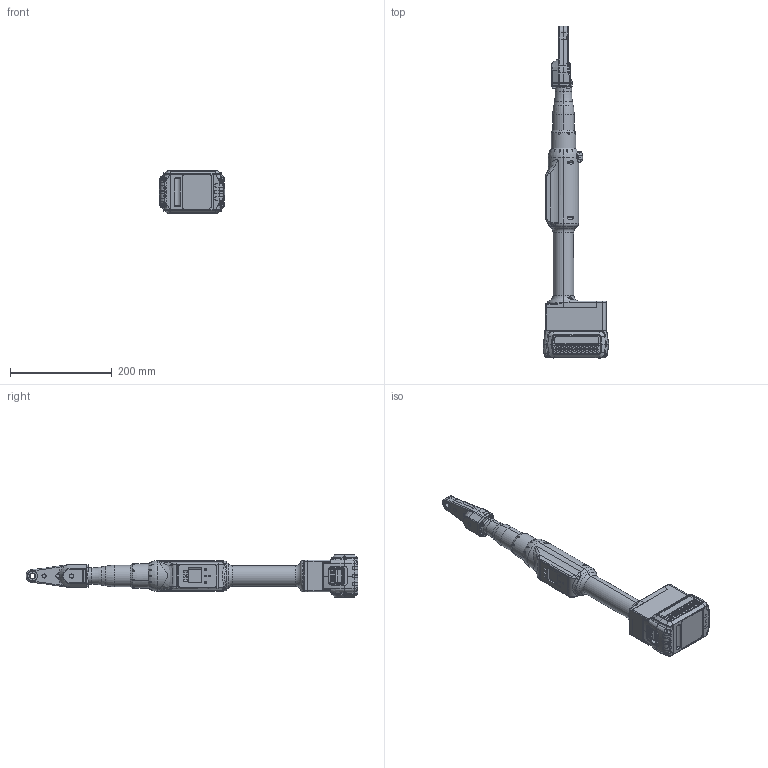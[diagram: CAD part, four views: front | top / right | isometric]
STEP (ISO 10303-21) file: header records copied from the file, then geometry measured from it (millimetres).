
FILE_DESCRIPTION (( 'STEP AP203' ), '1' );
FILE_NAME ('非标定制拧紧工具-ZL40-N50-R830-H八分之三.STEP', '2024-09-09T08:06:33', ( 'Windows 用户' ), ( 'Microsoft' ), 'SwSTEP 2.0', 'SolidWorks 2021', '' );
FILE_SCHEMA (( 'CONFIG_CONTROL_DESIGN' ));
Length unit declared in the file: millimetre
Products named in the file (1): 非标定制拧紧工具-ZL40-N50-R830-H八分之三
Bounding box: 128.75 x 654.08 x 84.7 mm (x, y, z)
Surface area: 165591.1 mm2 (no closed solid volume)
Topology: 0 solids, 131 shells, 1076 faces, 4785 edges, 3726 vertices
Faces by surface type: plane 444, bspline 262, cylinder 255, torus 82, cone 23, sphere 10
Entity records: 71923 total; most frequent: CARTESIAN_POINT 36962, ORIENTED_EDGE 6553, DIRECTION 6157, EDGE_CURVE 4764, VERTEX_POINT 3724, VECTOR 2593, LINE 2593, AXIS2_PLACEMENT_3D 1782
